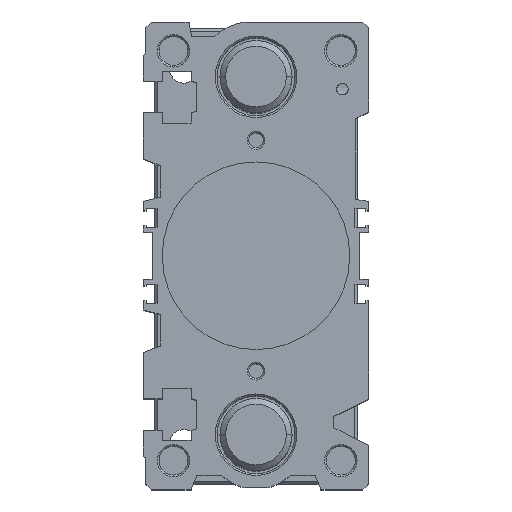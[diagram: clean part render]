
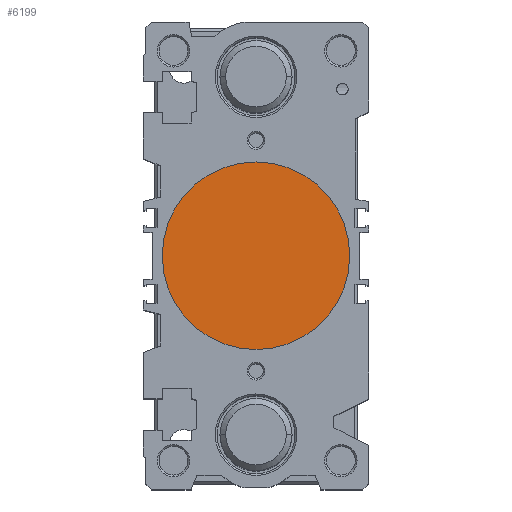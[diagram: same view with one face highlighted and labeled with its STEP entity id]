
A CAD part, top view. The second image highlights one B-rep face of the part: STEP entity #6199.
In plain terms, the highlighted planar face has unit normal (0, 0, 1).
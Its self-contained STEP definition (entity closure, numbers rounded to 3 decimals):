
#71 = DIRECTION ( 'NONE',  ( 1., 0., 0. ) ) ;
#740 = DIRECTION ( 'NONE',  ( 0., 0., 1. ) ) ;
#875 = CARTESIAN_POINT ( 'NONE',  ( 0., 0., 94. ) ) ;
#1340 = AXIS2_PLACEMENT_3D ( 'NONE', #3803, #9765, #4654 ) ;
#2566 = PLANE ( 'NONE',  #5668 ) ;
#3622 = CARTESIAN_POINT ( 'NONE',  ( -32.5, 0., 94. ) ) ;
#3803 = CARTESIAN_POINT ( 'NONE',  ( 0., 0., 94. ) ) ;
#4654 = DIRECTION ( 'NONE',  ( 1., 0., 0. ) ) ;
#5006 = CIRCLE ( 'NONE', #1340, 32.5 ) ;
#5082 = DIRECTION ( 'NONE',  ( 0., 0., 1. ) ) ;
#5668 = AXIS2_PLACEMENT_3D ( 'NONE', #875, #5082, #71 ) ;
#5780 = CARTESIAN_POINT ( 'NONE',  ( 0., 0., 94. ) ) ;
#6199 = ADVANCED_FACE ( 'NONE', ( #6998 ), #2566, .T. ) ;
#6386 = AXIS2_PLACEMENT_3D ( 'NONE', #5780, #740, #6660 ) ;
#6514 = ORIENTED_EDGE ( 'NONE', *, *, #9025, .T. ) ;
#6660 = DIRECTION ( 'NONE',  ( 1., 0., 0. ) ) ;
#6741 = EDGE_LOOP ( 'NONE', ( #7156, #6514 ) ) ;
#6998 = FACE_OUTER_BOUND ( 'NONE', #6741, .T. ) ;
#7156 = ORIENTED_EDGE ( 'NONE', *, *, #8164, .T. ) ;
#7631 = VERTEX_POINT ( 'NONE', #8186 ) ;
#7819 = CIRCLE ( 'NONE', #6386, 32.5 ) ;
#8079 = VERTEX_POINT ( 'NONE', #3622 ) ;
#8164 = EDGE_CURVE ( 'NONE', #7631, #8079, #5006, .T. ) ;
#8186 = CARTESIAN_POINT ( 'NONE',  ( 32.5, 0., 94. ) ) ;
#9025 = EDGE_CURVE ( 'NONE', #8079, #7631, #7819, .T. ) ;
#9765 = DIRECTION ( 'NONE',  ( 0., 0., 1. ) ) ;
